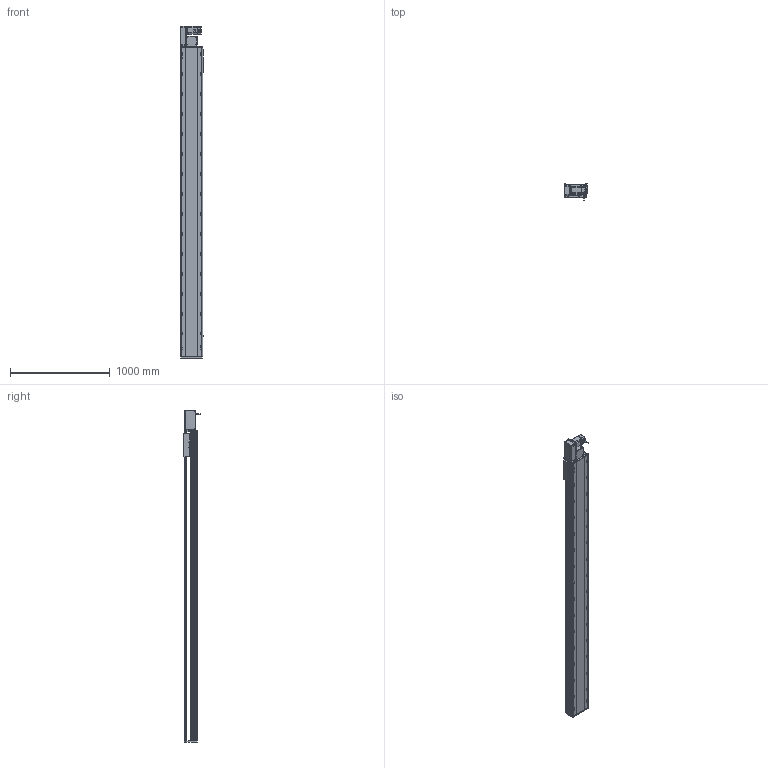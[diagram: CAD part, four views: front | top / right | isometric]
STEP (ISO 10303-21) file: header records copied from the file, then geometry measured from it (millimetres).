
FILE_DESCRIPTION (( 'STEP AP214' ), '1' );
FILE_NAME ('RTB22S-XX-2750-L-M75-C4.STEP', '2025-12-12T03:29:12', ( '' ), ( '' ), 'SwSTEP 2.0', 'SolidWorks 2018', '' );
FILE_SCHEMA (( 'AUTOMOTIVE_DESIGN' ));
Length unit declared in the file: millimetre
Products named in the file (14): OMRON EE-SX672 传感器^RTB22S-XX-XX-L-M75-C4; RTH22-GY-013外置感应片^RTB22S-XX-XX-L-M75-C4; RTB22S-GY-001耜裔^RTB22S-XX-XX-L-M75-C4; 750W萇儂^RTB22S-XX-XX-L-M75-C4; RTB22S-L-004賑釱^RTB22S-XX-XX-L-M75-C4; RTB22S-GY-018P^RTB22S-L-々湍釱蚾饜_RTB22S-XX-XX-L-M75-C4; RTB22S-GY-005P^RTB22S-L-々湍釱蚾饜_RTB22S-XX-XX-L-M75-C4; RTB22S-GY-017P^RTB22S-L-々湍釱蚾饜_RTB22S-XX-XX-L-M75-C4; RTB22S-L-々湍釱蚾饜^RTB22S-XX-XX-L-M75-C4; RTB22S-XX-2750-L-M75-C4; RTB22S-GY-014--々湍釱^RTB22S-L-々湍釱蚾饜_RTB22S-XX-XX-L-M75-C4; RTB22S-GY-008-M75--萇儂啣^RTB22S-L-々湍釱蚾饜_RTB22S-XX-XX-L-M75-C4; RTB22S-L-011菁釱^RTB22S-XX-XX-L-M75-C4; RTB22S-GY-007奻裔^RTB22S-XX-XX-L-M75-C4
Assembly tree (16 placements, depth 3):
  RTB22S-XX-2750-L-M75-C4
    RTB22S-L-011菁釱^RTB22S-XX-XX-L-M75-C4
    750W萇儂^RTB22S-XX-XX-L-M75-C4
    RTB22S-L-004賑釱^RTB22S-XX-XX-L-M75-C4
    OMRON EE-SX672 传感器^RTB22S-XX-XX-L-M75-C4  x3
    RTH22-GY-013外置感应片^RTB22S-XX-XX-L-M75-C4
    RTB22S-GY-007奻裔^RTB22S-XX-XX-L-M75-C4
    RTB22S-GY-001耜裔^RTB22S-XX-XX-L-M75-C4
    RTB22S-L-々湍釱蚾饜^RTB22S-XX-XX-L-M75-C4
      RTB22S-GY-014--々湍釱^RTB22S-L-々湍釱蚾饜_RTB22S-XX-XX-L-M75-C4
      RTB22S-GY-017P^RTB22S-L-々湍釱蚾饜_RTB22S-XX-XX-L-M75-C4  x2
      RTB22S-GY-005P^RTB22S-L-々湍釱蚾饜_RTB22S-XX-XX-L-M75-C4
      RTB22S-GY-008-M75--萇儂啣^RTB22S-L-々湍釱蚾饜_RTB22S-XX-XX-L-M75-C4
      RTB22S-GY-018P^RTB22S-L-々湍釱蚾饜_RTB22S-XX-XX-L-M75-C4
Bounding box: 238.5 x 162.7 x 3329 mm (x, y, z)
Volume: 41677713.4 mm3; surface area: 4254747.8 mm2
Topology: 15 solids, 15 shells, 2127 faces, 5786 edges, 3692 vertices
Faces by surface type: plane 931, cylinder 718, bspline 296, cone 170, sphere 8, torus 4
Entity records: 58032 total; most frequent: CARTESIAN_POINT 16356, ORIENTED_EDGE 8296, DIRECTION 8122, EDGE_CURVE 4148, AXIS2_PLACEMENT_3D 2918, VERTEX_POINT 2696, VECTOR 2286, LINE 2286
